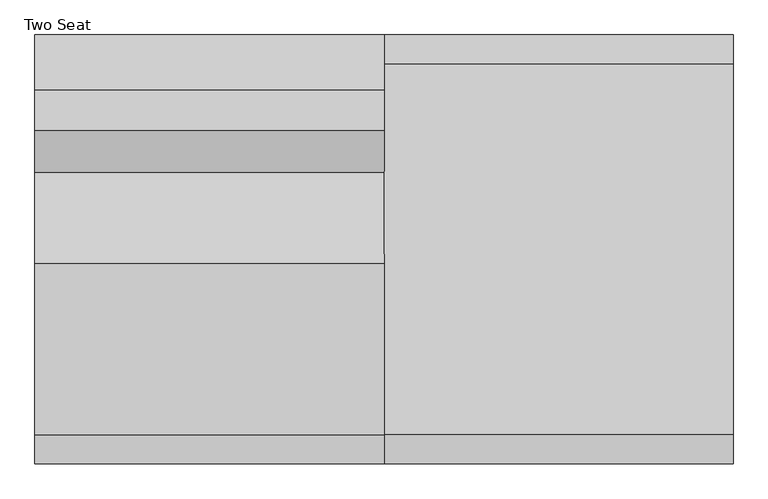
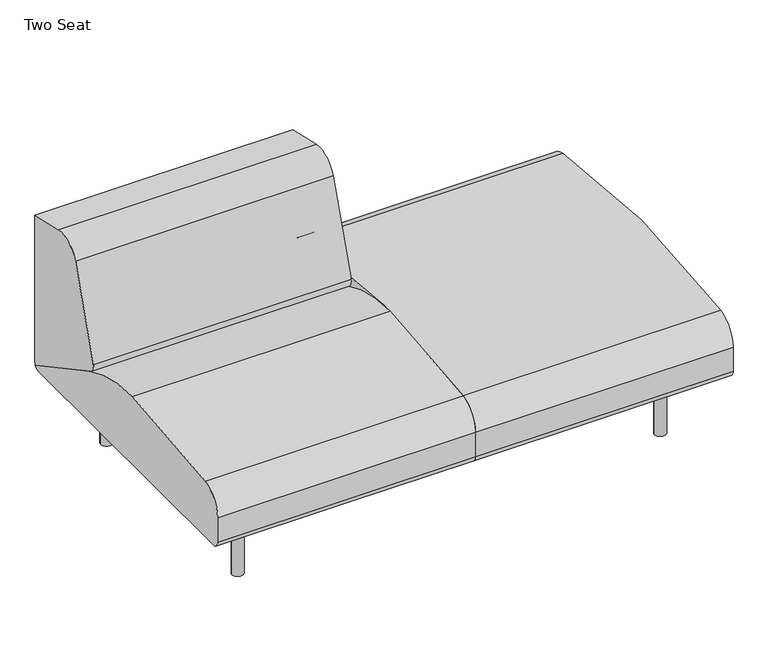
"""IFC4 building model written with IfcOpenShell, lengths in millimetres: furniture geometry, Coalesse_AM_Seating_LoungeChair_Sistema_LegBase_TwoSeat : Two Seat."""

import ifcopenshell
import ifcopenshell.guid

model = None  # the IFC model being written
_history = None  # IfcOwnerHistory: only IFC2X3 demands one
_inside = {}  # id of a spatial element -> (the spatial element, [elements in it])
_under = {}  # id of a project, library or spatial element -> (it, [spatial elements below it])
_declared = {}  # id of a project -> (the project, [libraries it declares])
_typed = {}  # id of a type object -> (the type object, [elements of that type])
_made_of = {}  # id of a material, layer set ... -> (it, [elements and type objects made of it])


def new_model(schema):
    """Start an empty IFC model of exactly this schema.

    Asked for "IFC4X3", IfcOpenShell would pick the latest addendum, in which some entities
    have other attributes; the version numbers below select the first issue.
    IFC2X3 requires an IfcOwnerHistory on every rooted entity: one is made here for all.
    """
    global model, _history
    if schema == "IFC4X3":
        model = ifcopenshell.file(schema_version=(4, 3, 0, 0))
    else:
        model = ifcopenshell.file(schema=schema)
    _inside.clear()
    _under.clear()
    _declared.clear()
    _typed.clear()
    _made_of.clear()
    _history = None
    if model.schema == "IFC2X3":
        org = make("IfcOrganization", Name="unknown")
        user = make(
            "IfcPersonAndOrganization",
            ThePerson=make("IfcPerson", FamilyName="unknown"),
            TheOrganization=org,
        )
        app = make(
            "IfcApplication",
            ApplicationDeveloper=org,
            Version="unknown",
            ApplicationFullName="unknown",
            ApplicationIdentifier="unknown",
        )
        _history = make(
            "IfcOwnerHistory",
            OwningUser=user,
            OwningApplication=app,
            ChangeAction="ADDED",
            CreationDate=0,
        )
    return model


def make(cls, **values):
    """One entity of the class cls with the attributes given. An attribute that is None is left unset."""
    return model.create_entity(
        cls, **{name: value for name, value in values.items() if value is not None}
    )


def rooted(cls, **values):
    """An entity with a GlobalId (a new one), such as an element, a storey or a relation."""
    return make(cls, GlobalId=ifcopenshell.guid.new(), OwnerHistory=_history, **values)


def si_unit(unit_type, name, prefix=None):
    """IfcSIUnit, for example si_unit("LENGTHUNIT", "METRE", prefix="MILLI")."""
    return make("IfcSIUnit", UnitType=unit_type, Prefix=prefix, Name=name)


def assignment(units):
    """IfcUnitAssignment: the units of a project."""
    return None if units is None else make("IfcUnitAssignment", Units=units)


def point(xyz):
    """IfcCartesianPoint."""
    return None if xyz is None else make("IfcCartesianPoint", Coordinates=xyz)


def direction(xyz):
    """IfcDirection."""
    return None if xyz is None else make("IfcDirection", DirectionRatios=xyz)


def frame(location, z_axis=None, x_axis=None):
    """IfcAxis2Placement3D, a coordinate frame: its origin and axes. An axis left out is left unset."""
    return make(
        "IfcAxis2Placement3D",
        Location=point(location),
        Axis=direction(z_axis),
        RefDirection=direction(x_axis),
    )


def frame_2d(location, x_axis=None):
    """IfcAxis2Placement2D, a coordinate frame in the plane: its origin and x axis."""
    return make(
        "IfcAxis2Placement2D", Location=point(location), RefDirection=direction(x_axis)
    )


def origin():
    """The frame at (0, 0, 0) with its axes left unset."""
    return frame((0.0, 0.0, 0.0))


def origin_with_axes():
    """The frame at (0, 0, 0) with the z axis (0, 0, 1) and the x axis (1, 0, 0) written out."""
    return frame((0.0, 0.0, 0.0), z_axis=(0.0, 0.0, 1.0), x_axis=(1.0, 0.0, 0.0))


def place(relative_to, where):
    """IfcLocalPlacement: puts the frame where relative to a parent placement (None: the world)."""
    return make(
        "IfcLocalPlacement", PlacementRelTo=relative_to, RelativePlacement=where
    )


def context(
    kind, dimensions, precision=None, world=None, true_north=None, identifier=None
):
    """IfcGeometricRepresentationContext, for example the 3D "Model" context."""
    return make(
        "IfcGeometricRepresentationContext",
        ContextIdentifier=identifier,
        ContextType=kind,
        CoordinateSpaceDimension=dimensions,
        Precision=precision,
        WorldCoordinateSystem=world,
        TrueNorth=true_north,
    )


def project(units=None, contexts=None):
    """IfcProject with its units and contexts."""
    return rooted(
        "IfcProject",
        Name="project",
        RepresentationContexts=contexts,
        UnitsInContext=assignment(units),
    )


def spatial(cls, under=None, at=None, **own):
    """A site, building, storey or space (cls), placed at a placement, below another one or the project."""
    s = rooted(cls, ObjectPlacement=at, **own)
    if under is not None:
        _under.setdefault(under.id(), (under, []))[1].append(s)
    return s


def polyline(points):
    """IfcPolyline through the points."""
    return make("IfcPolyline", Points=[point(p) for p in points])


def circle_curve(where, radius):
    """IfcCircle in the frame where."""
    return make("IfcCircle", Position=where, Radius=radius)


def trimmed(basis, trim1, trim2, sense, master):
    """IfcTrimmedCurve: the piece of a basis curve between two trims."""
    return make(
        "IfcTrimmedCurve",
        BasisCurve=basis,
        Trim1=trim1,
        Trim2=trim2,
        SenseAgreement=sense,
        MasterRepresentation=master,
    )


def segment(curve, same_sense, transition):
    """IfcCompositeCurveSegment."""
    return make(
        "IfcCompositeCurveSegment",
        Transition=transition,
        SameSense=same_sense,
        ParentCurve=curve,
    )


def composite_curve(segments, self_intersect=None):
    """IfcCompositeCurve: segments joined end to end."""
    return make("IfcCompositeCurve", Segments=segments, SelfIntersect=self_intersect)


def outline(outer, holes=None, kind="AREA"):
    """IfcArbitraryClosedProfileDef: a profile drawn as a closed curve; with holes, ...WithVoids."""
    if holes is None:
        return make("IfcArbitraryClosedProfileDef", ProfileType=kind, OuterCurve=outer)
    return make(
        "IfcArbitraryProfileDefWithVoids",
        ProfileType=kind,
        OuterCurve=outer,
        InnerCurves=holes,
    )


def extrude(swept, where, along, depth):
    """IfcExtrudedAreaSolid: the profile swept, set in the frame where, extruded along a direction by depth."""
    return make(
        "IfcExtrudedAreaSolid",
        SweptArea=swept,
        Position=where,
        ExtrudedDirection=direction(along),
        Depth=depth,
    )


def shape(context_of_items, identifier, shape_type, items):
    """IfcShapeRepresentation: the items that make up one representation, for example the "Body"."""
    return make(
        "IfcShapeRepresentation",
        ContextOfItems=context_of_items,
        RepresentationIdentifier=identifier,
        RepresentationType=shape_type,
        Items=items,
    )


def source(mapping_origin, context_of_items, identifier, shape_type, items):
    """IfcRepresentationMap: a shape defined once, which mapped items show again and again."""
    return make(
        "IfcRepresentationMap",
        MappingOrigin=mapping_origin,
        MappedRepresentation=shape(context_of_items, identifier, shape_type, items),
    )


def transform(
    local_origin,
    x_axis=None,
    y_axis=None,
    z_axis=None,
    scale=None,
    scale2=None,
    scale3=None,
    uniform=True,
):
    """IfcCartesianTransformationOperator3D, or its non-uniform kind. x_axis, y_axis, z_axis: its Axis1, 2, 3."""
    if uniform:
        return make(
            "IfcCartesianTransformationOperator3D",
            Axis1=direction(x_axis),
            Axis2=direction(y_axis),
            LocalOrigin=point(local_origin),
            Scale=scale,
            Axis3=direction(z_axis),
        )
    return make(
        "IfcCartesianTransformationOperator3DnonUniform",
        Axis1=direction(x_axis),
        Axis2=direction(y_axis),
        LocalOrigin=point(local_origin),
        Scale=scale,
        Axis3=direction(z_axis),
        Scale2=scale2,
        Scale3=scale3,
    )


def mapped(mapping_source, mapping_target):
    """IfcMappedItem: shows the shape of a source again, moved by a transform."""
    return make(
        "IfcMappedItem", MappingSource=mapping_source, MappingTarget=mapping_target
    )


def made_of(thing, what):
    """Note that an element or type object is made of a material, layer set ...; save() writes the relation."""
    if what is not None:
        _made_of.setdefault(what.id(), (what, []))[1].append(thing)
    return thing


def element(
    cls,
    number,
    at=None,
    inside=None,
    cuts=None,
    type_object=None,
    material=None,
    context=None,
    identifier="Body",
    shape_type=None,
    held_by="IfcProductDefinitionShape",
    body=None,
    shapes=None,
    **own,
):
    """One element of the class cls, such as IfcWall. Its Tag is "e" and its number.

    at: its placement. inside: the storey or other place that contains it. cuts: it is an
    opening in that element (IfcRelVoidsElement). A single representation is given by context,
    identifier, shape_type and body (its items); several are given by shapes. held_by: the class
    of the entity that holds the representations. save() writes the other relations.
    """
    e = rooted(cls, Tag="e%d" % number, ObjectPlacement=at, **own)
    if body is not None:
        shapes = [shape(context, identifier, shape_type, body)]
    if shapes is not None:
        e.Representation = make(held_by, Representations=shapes)
    if inside is not None:
        _inside.setdefault(inside.id(), (inside, []))[1].append(e)
    if cuts is not None:
        rooted(
            "IfcRelVoidsElement", RelatingBuildingElement=cuts, RelatedOpeningElement=e
        )
    if type_object is not None:
        _typed.setdefault(type_object.id(), (type_object, []))[1].append(e)
    return made_of(e, material)


def aggregate(whole, parts):
    """IfcRelAggregates: a whole, such as a stair, and the parts it consists of."""
    return rooted("IfcRelAggregates", RelatingObject=whole, RelatedObjects=parts)


def save(model, path):
    """Write the relations noted so far, then the file.

    IfcRelAggregates (storeys below a building ...), IfcRelContainedInSpatialStructure (elements
    in a storey), IfcRelDefinesByType, IfcRelAssociatesMaterial and IfcRelDeclares: one each for
    every whole, place, type object, material and project.
    """
    for whole, parts in _under.values():
        aggregate(whole, parts)
    for where, things in _inside.values():
        rooted(
            "IfcRelContainedInSpatialStructure",
            RelatedElements=things,
            RelatingStructure=where,
        )
    for kind, things in _typed.values():
        rooted("IfcRelDefinesByType", RelatedObjects=things, RelatingType=kind)
    for what, things in _made_of.values():
        rooted("IfcRelAssociatesMaterial", RelatedObjects=things, RelatingMaterial=what)
    for by, libraries in _declared.values():
        rooted("IfcRelDeclares", RelatingContext=by, RelatedDefinitions=libraries)
    model.write(path)


def two_seat_11a0bdf1(model_context):
    return source(origin(), model_context, "Body", "SweptSolid", [
        extrude(outline(composite_curve([segment(trimmed(circle_curve(frame_2d((989.1765227, 335.9943389)), 6.096), [point((995.2725227, 335.9943389))], [point((983.0805227, 335.9943389))], False, "CARTESIAN"), True, "CONTINUOUS"), segment(trimmed(circle_curve(frame_2d((989.1765227, 335.9943389)), 6.096), [point((983.0805227, 335.9943389))], [point((995.2725227, 335.9943389))], False, "CARTESIAN"), True, "CONTINUOUS")], self_intersect=False)), origin_with_axes(), (0.0, 0.0, 1.0), 4.3662291),
        extrude(outline(composite_curve([segment(trimmed(circle_curve(frame_2d((989.1765227, -327.2630889)), 6.096), [point((995.2725227, -327.2630889))], [point((983.0805227, -327.2630889))], False, "CARTESIAN"), True, "CONTINUOUS"), segment(trimmed(circle_curve(frame_2d((989.1765227, -327.2630889)), 6.096), [point((983.0805227, -327.2630889))], [point((995.2725227, -327.2630889))], False, "CARTESIAN"), True, "CONTINUOUS")], self_intersect=False)), origin_with_axes(), (0.0, 0.0, 1.0), 4.3662291),
        extrude(outline(composite_curve([segment(polyline([(157.0399209, 1001.756375), (201.7356243, 1001.756375)]), True, "CONTINUOUS"), segment(trimmed(circle_curve(frame_2d((201.7356243, 998.708375)), 3.048), [point((201.7356243, 1001.756375))], [point((204.7836243, 998.708375))], False, "CARTESIAN"), True, "CONTINUOUS"), segment(polyline([(204.7836243, 998.708375), (204.7836243, 979.366199)]), True, "CONTINUOUS"), segment(trimmed(circle_curve(frame_2d((201.7356243, 979.366199)), 3.048), [point((204.7836243, 979.366199))], [point((201.7356243, 976.318199))], False, "CARTESIAN"), True, "CONTINUOUS"), segment(polyline([(201.7356243, 976.318199), (157.1249936, 976.318199)]), True, "CONTINUOUS"), segment(trimmed(circle_curve(frame_2d((157.1249936, 979.4512718)), 3.1330728), [point((157.1249936, 976.318199))], [point((153.9919209, 979.4512718))], False, "CARTESIAN"), True, "CONTINUOUS"), segment(polyline([(153.9919209, 979.4512718), (153.9919209, 998.708375)]), True, "CONTINUOUS"), segment(trimmed(circle_curve(frame_2d((157.0399209, 998.708375)), 3.048), [point((153.9919209, 998.708375))], [point((157.0399209, 1001.756375))], False, "CARTESIAN"), True, "CONTINUOUS")], self_intersect=False)), frame((0.0, 222.3519802, 0.0), z_axis=(0.0, 1.0, 0.0), x_axis=(0.0, 0.0, 1.0)), (0.0, 0.0, 1.0), 92.6273161),
        extrude(outline(composite_curve([segment(polyline([(157.0399209, 1001.756375), (201.7356243, 1001.756375)]), True, "CONTINUOUS"), segment(trimmed(circle_curve(frame_2d((201.7356243, 998.708375)), 3.048), [point((201.7356243, 1001.756375))], [point((204.7836243, 998.708375))], False, "CARTESIAN"), True, "CONTINUOUS"), segment(polyline([(204.7836243, 998.708375), (204.7836243, 979.366199)]), True, "CONTINUOUS"), segment(trimmed(circle_curve(frame_2d((201.7356243, 979.366199)), 3.048), [point((204.7836243, 979.366199))], [point((201.7356243, 976.318199))], False, "CARTESIAN"), True, "CONTINUOUS"), segment(polyline([(201.7356243, 976.318199), (157.1249936, 976.318199)]), True, "CONTINUOUS"), segment(trimmed(circle_curve(frame_2d((157.1249936, 979.4512718)), 3.1330728), [point((157.1249936, 976.318199))], [point((153.9919209, 979.4512718))], False, "CARTESIAN"), True, "CONTINUOUS"), segment(polyline([(153.9919209, 979.4512718), (153.9919209, 998.708375)]), True, "CONTINUOUS"), segment(trimmed(circle_curve(frame_2d((157.0399209, 998.708375)), 3.048), [point((153.9919209, 998.708375))], [point((157.0399209, 1001.756375))], False, "CARTESIAN"), True, "CONTINUOUS")], self_intersect=False)), frame((0.0, -314.9792963, 0.0), z_axis=(0.0, 1.0, 0.0), x_axis=(0.0, 0.0, 1.0)), (0.0, 0.0, 1.0), 92.6273161),
        extrude(outline(composite_curve([segment(trimmed(circle_curve(frame_2d((176.3356606, 966.5259944)), 3.048), [point((179.3836606, 966.5259944))], [point((176.3356606, 963.4779944))], False, "CARTESIAN"), True, "CONTINUOUS"), segment(polyline([(176.3356606, 963.4779944), (157.0399209, 963.4779944)]), True, "CONTINUOUS"), segment(trimmed(circle_curve(frame_2d((157.0399209, 966.5259944)), 3.048), [point((157.0399209, 963.4779944))], [point((153.9919209, 966.5259944))], False, "CARTESIAN"), True, "CONTINUOUS"), segment(polyline([(153.9919209, 966.5259944), (153.9919209, 1011.2135501)]), True, "CONTINUOUS"), segment(trimmed(circle_curve(frame_2d((157.056462, 1011.2135501)), 3.0645412), [point((153.9919209, 1011.2135501))], [point((157.056462, 1014.2780913))], False, "CARTESIAN"), True, "CONTINUOUS"), segment(polyline([(157.056462, 1014.2780913), (176.3356606, 1014.2780913)]), True, "CONTINUOUS"), segment(trimmed(circle_curve(frame_2d((176.3356606, 1011.2300913)), 3.048), [point((176.3356606, 1014.2780913))], [point((179.3836606, 1011.2300913))], False, "CARTESIAN"), True, "CONTINUOUS"), segment(polyline([(179.3836606, 1011.2300913), (179.3836606, 966.5259944)]), True, "CONTINUOUS")], self_intersect=False)), frame((0.0, -222.3519802, 0.0), z_axis=(0.0, 1.0, 0.0), x_axis=(0.0, 0.0, 1.0)), (0.0, 0.0, 1.0), 444.7039604),
        extrude(outline(composite_curve([segment(trimmed(circle_curve(frame_2d((989.1765227, 332.3095741)), 16.51), [point((1005.6865227, 332.3095741))], [point((972.6665227, 332.3095741))], False, "CARTESIAN"), True, "CONTINUOUS"), segment(trimmed(circle_curve(frame_2d((989.1765227, 332.3095741)), 16.51), [point((972.6665227, 332.3095741))], [point((1005.6865227, 332.3095741))], False, "CARTESIAN"), True, "CONTINUOUS")], self_intersect=False)), frame((0.0, 0.0, 4.3662291), z_axis=(0.0, 0.0, 1.0), x_axis=(1.0, 0.0, 0.0)), (0.0, 0.0, 1.0), 200.1037709),
        extrude(outline(composite_curve([segment(trimmed(circle_curve(frame_2d((988.7796477, -327.5470741)), 16.51), [point((1005.2896477, -327.5470741))], [point((972.2696477, -327.5470741))], False, "CARTESIAN"), True, "CONTINUOUS"), segment(trimmed(circle_curve(frame_2d((988.7796477, -327.5470741)), 16.51), [point((972.2696477, -327.5470741))], [point((1005.2896477, -327.5470741))], False, "CARTESIAN"), True, "CONTINUOUS")], self_intersect=False)), frame((0.0, 0.0, 4.3662291), z_axis=(0.0, 0.0, 1.0), x_axis=(1.0, 0.0, 0.0)), (0.0, 0.0, 1.0), 200.1037709),
        extrude(outline(composite_curve([segment(polyline([(459.4795619, 673.6041325), (459.4795619, 228.1929806)]), True, "CONTINUOUS"), segment(trimmed(circle_curve(frame_2d((191.495971, 228.1929806)), 267.983591), [point((459.4795619, 228.1929806))], [point((458.9860775, 211.937276))], False, "CARTESIAN"), True, "CONTINUOUS"), segment(polyline([(458.9860775, 211.937276), (177.4990556, 364.1028799)]), True, "CONTINUOUS"), segment(trimmed(circle_curve(frame_2d((189.5778307, 386.4470781)), 25.4), [point((177.4990556, 364.1028799))], [point((164.9600055, 392.7018911))], False, "CARTESIAN"), True, "CONTINUOUS"), segment(trimmed(circle_curve(frame_2d((1918.112812, -52.7331923)), 1808.8552115), [point((164.9600055, 392.7018911))], [point((254.1018253, 656.5090883))], False, "CARTESIAN"), True, "CONTINUOUS"), segment(trimmed(circle_curve(frame_2d((324.2001043, 626.6314831)), 76.2), [point((254.1018253, 656.5090883))], [point((341.3413746, 700.8784821))], False, "CARTESIAN"), True, "CONTINUOUS"), segment(polyline([(341.3413746, 700.8784821), (459.4795619, 673.6041325)]), True, "CONTINUOUS")], self_intersect=False)), frame((-374.8034773, 0.0, 0.0), z_axis=(1.0, 0.0, 0.0), x_axis=(0.0, 1.0, 0.0)), (0.0, 0.0, 1.0), 749.3),
        extrude(outline(composite_curve([segment(trimmed(circle_curve(frame_2d((-438.9184381, 226.822)), 22.352), [point((-438.9184381, 204.47))], [point((-461.2704381, 226.822))], False, "CARTESIAN"), True, "CONTINUOUS"), segment(polyline([(-461.2704381, 226.822), (-461.2704381, 301.4421993)]), True, "CONTINUOUS"), segment(trimmed(circle_curve(frame_2d((-385.0704381, 301.4421993)), 76.2), [point((-461.2704381, 301.4421993))], [point((-398.9277015, 376.3716077))], False, "CARTESIAN"), True, "CONTINUOUS"), segment(trimmed(circle_curve(frame_2d((2.2103559, -1792.6740646)), 2205.8265729), [point((-398.9277015, 376.3716077))], [point((-31.1968175, 412.8995185))], False, "CARTESIAN"), True, "CONTINUOUS"), segment(trimmed(circle_curve(frame_2d((-24.5128424, -28.3829182)), 441.333054), [point((-31.1968175, 412.8995185))], [point((184.5757008, 360.2774035))], False, "CARTESIAN"), True, "CONTINUOUS"), segment(polyline([(184.5757008, 360.2774035), (458.9860775, 211.937276)]), True, "CONTINUOUS"), segment(trimmed(circle_curve(frame_2d((442.3266309, 226.7871991)), 22.3171991), [point((458.9860775, 211.937276))], [point((442.3266309, 204.47))], False, "CARTESIAN"), True, "CONTINUOUS"), segment(polyline([(442.3266309, 204.47), (-438.9184381, 204.47)]), True, "CONTINUOUS")], self_intersect=False)), frame((-374.8034773, 0.0, 0.0), z_axis=(1.0, 0.0, 0.0), x_axis=(0.0, 1.0, 0.0)), (0.0, 0.0, 1.0), 749.3),
        extrude(outline(composite_curve([segment(trimmed(circle_curve(frame_2d((-438.9184381, 226.822)), 22.352), [point((-438.9184381, 204.47))], [point((-461.2704381, 226.822))], False, "CARTESIAN"), True, "CONTINUOUS"), segment(polyline([(-461.2704381, 226.822), (-461.2704381, 301.4421993)]), True, "CONTINUOUS"), segment(trimmed(circle_curve(frame_2d((-385.0704381, 301.4421993)), 76.2), [point((-461.2704381, 301.4421993))], [point((-398.9279534, 376.3715612))], False, "CARTESIAN"), True, "CONTINUOUS"), segment(trimmed(circle_curve(frame_2d((-0.3717831, -1778.6727457)), 2191.5891461), [point((-398.9279534, 376.3715612))], [point((397.0993513, 376.5719464))], False, "CARTESIAN"), True, "CONTINUOUS"), segment(trimmed(circle_curve(frame_2d((383.2795619, 301.6356173)), 76.2), [point((397.0993513, 376.5719464))], [point((459.4795619, 301.6356173))], False, "CARTESIAN"), True, "CONTINUOUS"), segment(polyline([(459.4795619, 301.6356173), (459.4795619, 226.7871991)]), True, "CONTINUOUS"), segment(trimmed(circle_curve(frame_2d((437.1623628, 226.7871991)), 22.3171991), [point((459.4795619, 226.7871991))], [point((437.1623628, 204.47))], False, "CARTESIAN"), True, "CONTINUOUS"), segment(polyline([(437.1623628, 204.47), (-438.9184381, 204.47)]), True, "CONTINUOUS")], self_intersect=False)), frame((374.4965227, 0.0, 0.0), z_axis=(1.0, 0.0, 0.0), x_axis=(0.0, 1.0, 0.0)), (0.0, 0.0, 1.0), 749.3),
        extrude(outline(composite_curve([segment(trimmed(circle_curve(frame_2d((-240.1834773, 335.9943389)), 6.096), [point((-246.2794773, 335.9943389))], [point((-234.0874773, 335.9943389))], False, "CARTESIAN"), True, "CONTINUOUS"), segment(trimmed(circle_curve(frame_2d((-240.1834773, 335.9943389)), 6.096), [point((-234.0874773, 335.9943389))], [point((-246.2794773, 335.9943389))], False, "CARTESIAN"), True, "CONTINUOUS")], self_intersect=False)), origin_with_axes(), (0.0, 0.0, 1.0), 4.3662291),
        extrude(outline(composite_curve([segment(trimmed(circle_curve(frame_2d((-240.1834773, -327.2630889)), 6.096), [point((-246.2794773, -327.2630889))], [point((-234.0874773, -327.2630889))], False, "CARTESIAN"), True, "CONTINUOUS"), segment(trimmed(circle_curve(frame_2d((-240.1834773, -327.2630889)), 6.096), [point((-234.0874773, -327.2630889))], [point((-246.2794773, -327.2630889))], False, "CARTESIAN"), True, "CONTINUOUS")], self_intersect=False)), origin_with_axes(), (0.0, 0.0, 1.0), 4.3662291),
        extrude(outline(composite_curve([segment(trimmed(circle_curve(frame_2d((157.0399209, -249.7153296)), 3.048), [point((157.0399209, -252.7633296))], [point((153.9919209, -249.7153296))], False, "CARTESIAN"), True, "CONTINUOUS"), segment(polyline([(153.9919209, -249.7153296), (153.9919209, -230.4582264)]), True, "CONTINUOUS"), segment(trimmed(circle_curve(frame_2d((157.1249936, -230.4582264)), 3.1330728), [point((153.9919209, -230.4582264))], [point((157.1249936, -227.3251537))], False, "CARTESIAN"), True, "CONTINUOUS"), segment(polyline([(157.1249936, -227.3251537), (201.7356243, -227.3251537)]), True, "CONTINUOUS"), segment(trimmed(circle_curve(frame_2d((201.7356243, -230.3731537)), 3.048), [point((201.7356243, -227.3251537))], [point((204.7836243, -230.3731537))], False, "CARTESIAN"), True, "CONTINUOUS"), segment(polyline([(204.7836243, -230.3731537), (204.7836243, -249.7153296)]), True, "CONTINUOUS"), segment(trimmed(circle_curve(frame_2d((201.7356243, -249.7153296)), 3.048), [point((204.7836243, -249.7153296))], [point((201.7356243, -252.7633296))], False, "CARTESIAN"), True, "CONTINUOUS"), segment(polyline([(201.7356243, -252.7633296), (157.0399209, -252.7633296)]), True, "CONTINUOUS")], self_intersect=False)), frame((0.0, 222.3519802, 0.0), z_axis=(0.0, 1.0, 0.0), x_axis=(0.0, 0.0, 1.0)), (0.0, 0.0, 1.0), 92.6273161),
        extrude(outline(composite_curve([segment(trimmed(circle_curve(frame_2d((157.0399209, -249.7153296)), 3.048), [point((157.0399209, -252.7633296))], [point((153.9919209, -249.7153296))], False, "CARTESIAN"), True, "CONTINUOUS"), segment(polyline([(153.9919209, -249.7153296), (153.9919209, -230.4582264)]), True, "CONTINUOUS"), segment(trimmed(circle_curve(frame_2d((157.1249936, -230.4582264)), 3.1330728), [point((153.9919209, -230.4582264))], [point((157.1249936, -227.3251537))], False, "CARTESIAN"), True, "CONTINUOUS"), segment(polyline([(157.1249936, -227.3251537), (201.7356243, -227.3251537)]), True, "CONTINUOUS"), segment(trimmed(circle_curve(frame_2d((201.7356243, -230.3731537)), 3.048), [point((201.7356243, -227.3251537))], [point((204.7836243, -230.3731537))], False, "CARTESIAN"), True, "CONTINUOUS"), segment(polyline([(204.7836243, -230.3731537), (204.7836243, -249.7153296)]), True, "CONTINUOUS"), segment(trimmed(circle_curve(frame_2d((201.7356243, -249.7153296)), 3.048), [point((204.7836243, -249.7153296))], [point((201.7356243, -252.7633296))], False, "CARTESIAN"), True, "CONTINUOUS"), segment(polyline([(201.7356243, -252.7633296), (157.0399209, -252.7633296)]), True, "CONTINUOUS")], self_intersect=False)), frame((0.0, -314.9792963, 0.0), z_axis=(0.0, 1.0, 0.0), x_axis=(0.0, 0.0, 1.0)), (0.0, 0.0, 1.0), 92.6273161),
        extrude(outline(composite_curve([segment(polyline([(179.3836606, -217.532949), (179.3836606, -262.2370459)]), True, "CONTINUOUS"), segment(trimmed(circle_curve(frame_2d((176.3356606, -262.2370459)), 3.048), [point((179.3836606, -262.2370459))], [point((176.3356606, -265.2850459))], False, "CARTESIAN"), True, "CONTINUOUS"), segment(polyline([(176.3356606, -265.2850459), (157.056462, -265.2850459)]), True, "CONTINUOUS"), segment(trimmed(circle_curve(frame_2d((157.056462, -262.2205047)), 3.0645412), [point((157.056462, -265.2850459))], [point((153.9919209, -262.2205047))], False, "CARTESIAN"), True, "CONTINUOUS"), segment(polyline([(153.9919209, -262.2205047), (153.9919209, -217.532949)]), True, "CONTINUOUS"), segment(trimmed(circle_curve(frame_2d((157.0399209, -217.532949)), 3.048), [point((153.9919209, -217.532949))], [point((157.0399209, -214.484949))], False, "CARTESIAN"), True, "CONTINUOUS"), segment(polyline([(157.0399209, -214.484949), (176.3356606, -214.484949)]), True, "CONTINUOUS"), segment(trimmed(circle_curve(frame_2d((176.3356606, -217.532949)), 3.048), [point((176.3356606, -214.484949))], [point((179.3836606, -217.532949))], False, "CARTESIAN"), True, "CONTINUOUS")], self_intersect=False)), frame((0.0, -222.3519802, 0.0), z_axis=(0.0, 1.0, 0.0), x_axis=(0.0, 0.0, 1.0)), (0.0, 0.0, 1.0), 444.7039604),
        extrude(outline(composite_curve([segment(trimmed(circle_curve(frame_2d((-240.1834773, 332.3095741)), 16.51), [point((-256.6934773, 332.3095741))], [point((-223.6734773, 332.3095741))], False, "CARTESIAN"), True, "CONTINUOUS"), segment(trimmed(circle_curve(frame_2d((-240.1834773, 332.3095741)), 16.51), [point((-223.6734773, 332.3095741))], [point((-256.6934773, 332.3095741))], False, "CARTESIAN"), True, "CONTINUOUS")], self_intersect=False)), frame((0.0, 0.0, 4.3662291), z_axis=(0.0, 0.0, 1.0), x_axis=(1.0, 0.0, 0.0)), (0.0, 0.0, 1.0), 200.1037709),
        extrude(outline(composite_curve([segment(trimmed(circle_curve(frame_2d((-239.7866023, -327.5470741)), 16.51), [point((-256.2966023, -327.5470741))], [point((-223.2766023, -327.5470741))], False, "CARTESIAN"), True, "CONTINUOUS"), segment(trimmed(circle_curve(frame_2d((-239.7866023, -327.5470741)), 16.51), [point((-223.2766023, -327.5470741))], [point((-256.2966023, -327.5470741))], False, "CARTESIAN"), True, "CONTINUOUS")], self_intersect=False)), frame((0.0, 0.0, 4.3662291), z_axis=(0.0, 0.0, 1.0), x_axis=(1.0, 0.0, 0.0)), (0.0, 0.0, 1.0), 200.1037709),
    ])


if __name__ == "__main__":
    model = new_model("IFC4")
    model_context = context("Model", 3, world=origin())
    ifc_project = project(units=[si_unit("LENGTHUNIT", "METRE", prefix="MILLI")], contexts=[model_context])
    site = spatial("IfcSite", under=ifc_project)
    building = spatial("IfcBuilding", under=site)
    placement = place(None, origin())
    two_seat_shape = two_seat_11a0bdf1(model_context)
    element("IfcFurniture", 1, ObjectType="Coalesse_AM_Seating_LoungeChair_Sistema_LegBase_TwoSeat : Two Seat", at=placement, inside=building, context=model_context, shape_type="MappedRepresentation", body=[
        mapped(two_seat_shape, transform((0.0, 0.0, 0.0), x_axis=(1.0, 0.0, 0.0), y_axis=(0.0, 1.0, 0.0), z_axis=(0.0, 0.0, 1.0))),
    ])
    save(model, "model.ifc")
